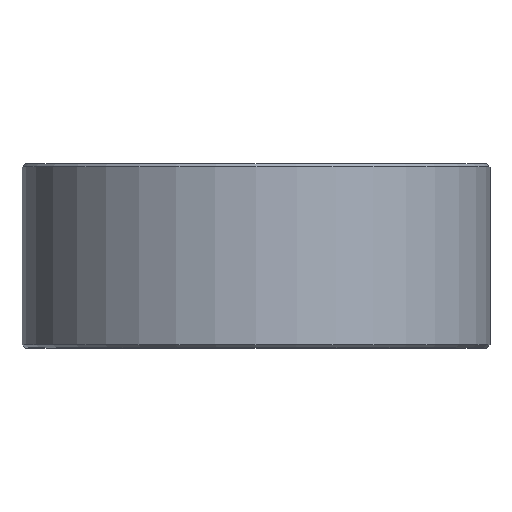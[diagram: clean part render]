
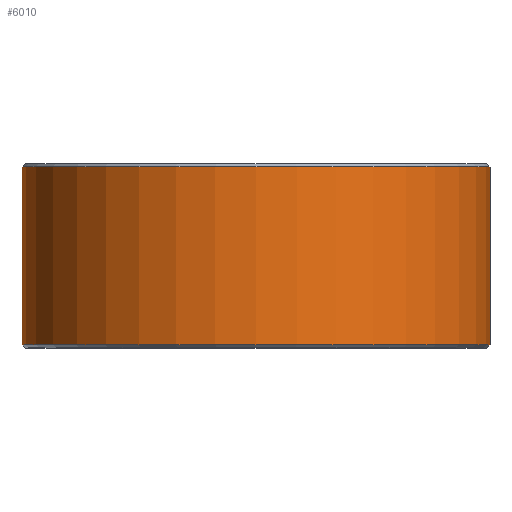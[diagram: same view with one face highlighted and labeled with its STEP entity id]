
A CAD part, top view. The second image highlights one B-rep face of the part: STEP entity #6010.
In plain terms, the highlighted cylindrical face has radius 15.25 mm (diameter 30.5 mm), a partial arc.
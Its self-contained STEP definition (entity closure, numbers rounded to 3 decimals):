
#2741=CARTESIAN_POINT('',(0.,0.2,0.));
#2742=DIRECTION('',(0.,-1.,0.));
#2743=DIRECTION('',(1.,0.,0.));
#2744=AXIS2_PLACEMENT_3D('',#2741,#2742,#2743);
#2746=DIRECTION('',(0.,1.,0.));
#2747=VECTOR('',#2746,11.6);
#2748=CARTESIAN_POINT('',(-15.25,0.2,
0.));
#2749=LINE('',#2748,#2747);
#2750=CARTESIAN_POINT('',(0.,11.8,0.));
#2751=DIRECTION('',(0.,1.,0.));
#2752=DIRECTION('',(-1.,0.,0.));
#2753=AXIS2_PLACEMENT_3D('',#2750,#2751,#2752);
#2768=DIRECTION('',(0.,1.,0.));
#2769=VECTOR('',#2768,11.6);
#2770=CARTESIAN_POINT('',(15.25,0.2,
0.));
#2771=LINE('',#2770,#2769);
#2895=CARTESIAN_POINT('',(-15.25,0.2,0.));
#2896=CARTESIAN_POINT('',(15.25,0.2,0.));
#2897=VERTEX_POINT('',#2895);
#2898=VERTEX_POINT('',#2896);
#2903=CARTESIAN_POINT('',(15.25,11.8,0.));
#2904=CARTESIAN_POINT('',(-15.25,11.8,0.));
#2905=VERTEX_POINT('',#2903);
#2906=VERTEX_POINT('',#2904);
#5996=CARTESIAN_POINT('',(0.,0.,0.));
#5997=DIRECTION('',(0.,1.,0.));
#5998=DIRECTION('',(1.,0.,0.));
#5999=AXIS2_PLACEMENT_3D('',#5996,#5997,#5998);
#6000=CYLINDRICAL_SURFACE('',#5999,15.25);
#6002=ORIENTED_EDGE('',*,*,#6001,.T.);
#6004=ORIENTED_EDGE('',*,*,#6003,.T.);
#6005=ORIENTED_EDGE('',*,*,#5990,.T.);
#6007=ORIENTED_EDGE('',*,*,#6006,.F.);
#6008=EDGE_LOOP('',(#6002,#6004,#6005,#6007));
#6009=FACE_OUTER_BOUND('',#6008,.F.);
#6010=ADVANCED_FACE('',(#6009),#6000,.T.);
#2745=CIRCLE('',#2744,15.25);
#2754=CIRCLE('',#2753,15.25);
#5990=EDGE_CURVE('',#2906,#2905,#2754,.T.);
#6001=EDGE_CURVE('',#2898,#2897,#2745,.T.);
#6003=EDGE_CURVE('',#2897,#2906,#2749,.T.);
#6006=EDGE_CURVE('',#2898,#2905,#2771,.T.);
